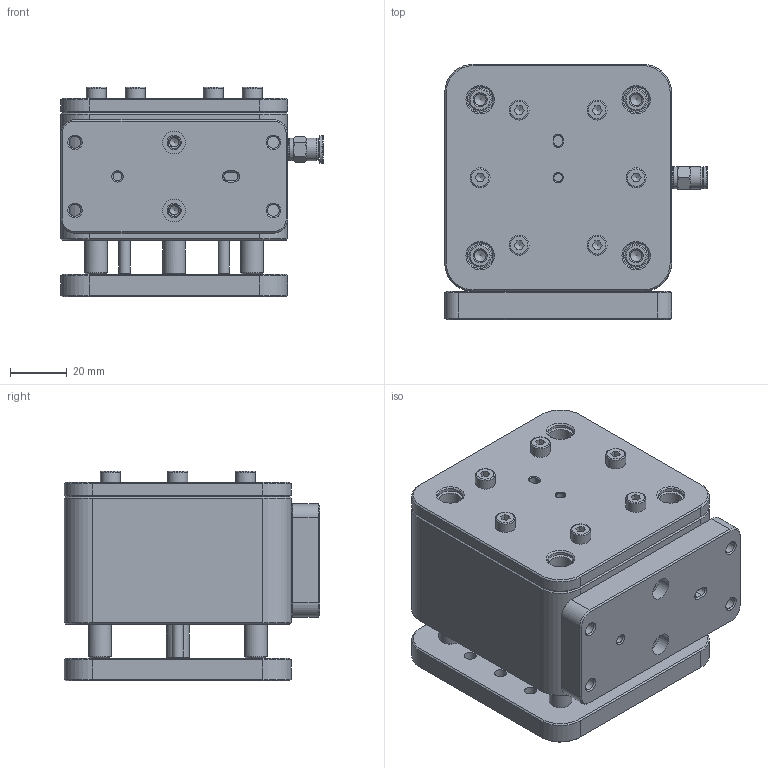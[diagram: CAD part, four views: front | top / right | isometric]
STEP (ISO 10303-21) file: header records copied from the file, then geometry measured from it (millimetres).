
FILE_DESCRIPTION(/* description */ (''),/* implementation_level */ '2;1');
FILE_NAME(/* name */ '\\Ds713\02.研發專案\T_機構研發\3_T3000系列_浮動工具\LC300_\X2\65B9584A6D6E52D5\X0\\4.CAD\0. 簡化\LC300.stp',/* time_stamp */ '2020-03-24T17:13:19+08:00',/* author */ ('PC-acer'),/* organization */ (''),/* preprocessor_version */ 'ST-DEVELOPER v15.2',/* originating_system */ 'Autodesk Inventor 2014',/* authorisation */ '');
FILE_SCHEMA (('AUTOMOTIVE_DESIGN { 1 0 10303 214 3 1 1 }'));
Length unit declared in the file: millimetre
Products named in the file (1): LC300-100-000-A_方塊浮動Assy_Substitut
e_2
Bounding box: 92.6 x 90 x 74 mm (x, y, z)
Volume: 393510.8 mm3; surface area: 59289.5 mm2
Topology: 1 solids, 1 shells, 448 faces, 1018 edges, 630 vertices
Faces by surface type: plane 194, cylinder 117, cone 116, torus 19, sphere 2
Full cylindrical faces by diameter (mm): 3 x8, 3.242 x4, 3.97 x1, 4 x2, 4.1 x2, 4.134 x24, 5 x2, 5.2 x1, 6 x2, 7 x6, 7.8 x2, 8 x12, 8.5 x6, 9 x8, 10 x5, 15 x4, 16 x4
Entity records: 11422 total; most frequent: CARTESIAN_POINT 1943, DIRECTION 1918, ORIENTED_EDGE 1528, AXIS2_PLACEMENT_3D 789, EDGE_CURVE 764, EDGE_LOOP 740, VERTEX_POINT 562, STYLED_ITEM 449
